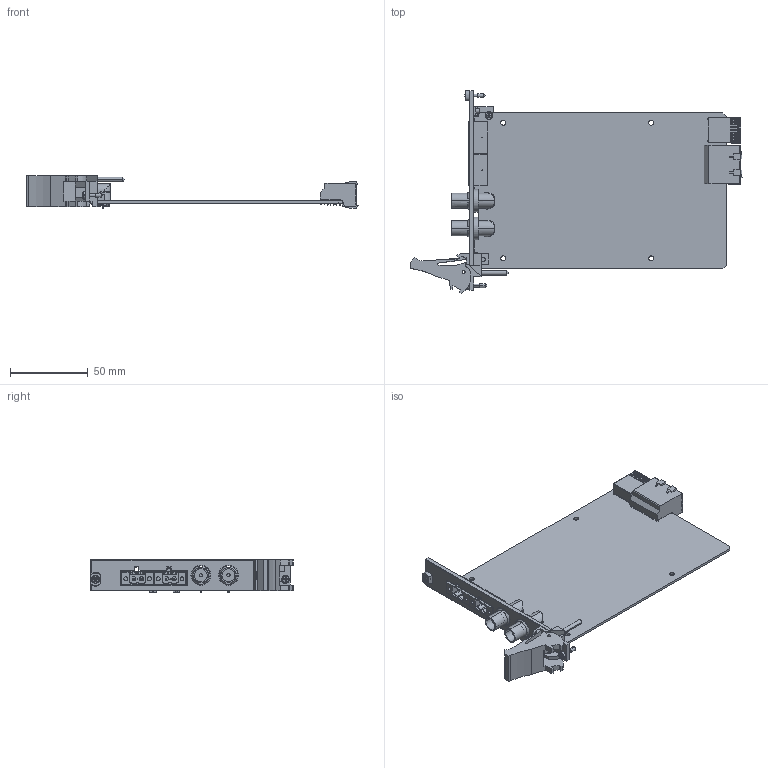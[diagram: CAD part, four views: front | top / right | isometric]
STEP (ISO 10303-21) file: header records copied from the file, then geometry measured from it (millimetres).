
FILE_DESCRIPTION((''),'2;1');
FILE_NAME('CU_PXIE-4610','2013-10-15T',('dkendric'),(''),'PRO/ENGINEER BY PARAMETRIC TECHNOLOGY CORPORATION, 2011490','PRO/ENGINEER BY PARAMETRIC TECHNOLOGY CORPORATION, 2011490','');
FILE_SCHEMA(('CONFIG_CONTROL_DESIGN'));
Products named in the file (1): CU_PXIE-4610
Bounding box: 213.82 x 130.5 x 20.8 mm (x, y, z)
Volume: 55085.5 mm3; surface area: 54101.6 mm2
Topology: 1 solids, 1 shells, 3326 faces, 8730 edges, 5718 vertices
Faces by surface type: plane 2851, cylinder 431, cone 22, sphere 12, extrusion 6, torus 4
Entity records: 104320 total; most frequent: CARTESIAN_POINT 22666, ORIENTED_EDGE 17444, DIRECTION 15472, EDGE_CURVE 8722, VECTOR 6652, LINE 6646, VERTEX_POINT 5718, AXIS2_PLACEMENT_3D 4410
